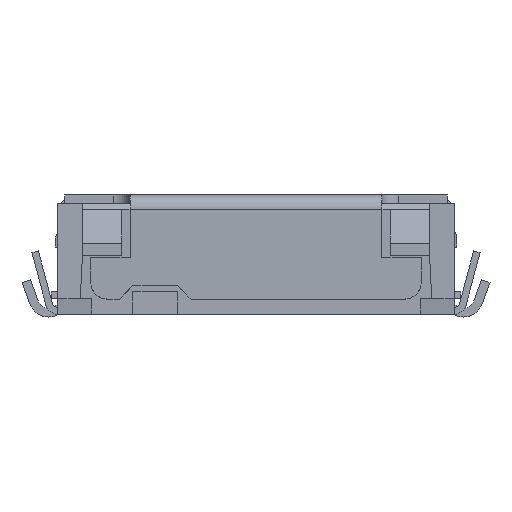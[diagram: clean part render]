
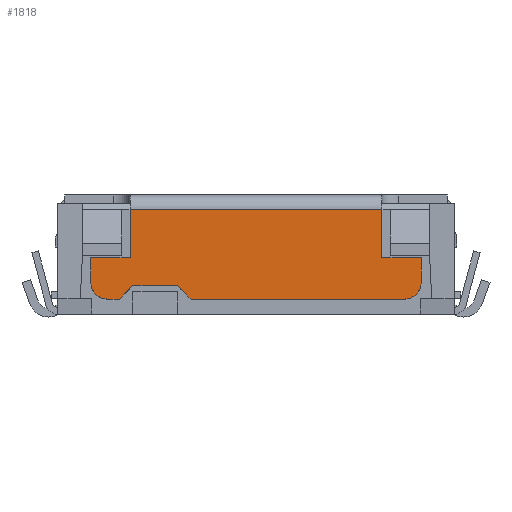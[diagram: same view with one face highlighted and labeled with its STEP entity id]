
A CAD part, front view. The second image highlights one B-rep face of the part: STEP entity #1818.
In plain terms, the highlighted planar face has unit normal (0, -1, 0).
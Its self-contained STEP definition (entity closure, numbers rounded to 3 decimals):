
#85 = ORIENTED_EDGE ( 'NONE', *, *, #1700, .T. ) ;
#91 = ORIENTED_EDGE ( 'NONE', *, *, #3338, .F. ) ;
#92 = ORIENTED_EDGE ( 'NONE', *, *, #1706, .F. ) ;
#103 = ORIENTED_EDGE ( 'NONE', *, *, #1631, .F. ) ;
#104 = ORIENTED_EDGE ( 'NONE', *, *, #1749, .F. ) ;
#110 = ORIENTED_EDGE ( 'NONE', *, *, #1727, .F. ) ;
#128 = ORIENTED_EDGE ( 'NONE', *, *, #3339, .T. ) ;
#134 = ORIENTED_EDGE ( 'NONE', *, *, #1764, .F. ) ;
#160 = ORIENTED_EDGE ( 'NONE', *, *, #1694, .F. ) ;
#1059 = ORIENTED_EDGE ( 'NONE', *, *, #1708, .F. ) ;
#1060 = ORIENTED_EDGE ( 'NONE', *, *, #3319, .F. ) ;
#1076 = ORIENTED_EDGE ( 'NONE', *, *, #1718, .T. ) ;
#1101 = ORIENTED_EDGE ( 'NONE', *, *, #3342, .F. ) ;
#1142 = ORIENTED_EDGE ( 'NONE', *, *, #1760, .T. ) ;
#1631 = EDGE_CURVE ( 'NONE', #13035, #12933, #5358, .T. ) ;
#1694 = EDGE_CURVE ( 'NONE', #12839, #12855, #5464, .T. ) ;
#1700 = EDGE_CURVE ( 'NONE', #12957, #12896, #5479, .T. ) ;
#1706 = EDGE_CURVE ( 'NONE', #13038, #12733, #5497, .T. ) ;
#1708 = EDGE_CURVE ( 'NONE', #12733, #12956, #5490, .T. ) ;
#1718 = EDGE_CURVE ( 'NONE', #13035, #13144, #5515, .T. ) ;
#1727 = EDGE_CURVE ( 'NONE', #12867, #12839, #5538, .T. ) ;
#1749 = EDGE_CURVE ( 'NONE', #12933, #12867, #5573, .T. ) ;
#1760 = EDGE_CURVE ( 'NONE', #13144, #12957, #5579, .T. ) ;
#1764 = EDGE_CURVE ( 'NONE', #12763, #12896, #5580, .T. ) ;
#1818 = ADVANCED_FACE ( 'NONE', ( #5689 ), #4412, .F. ) ;
#2468 = CARTESIAN_POINT ( 'NONE',  ( 1.325, -1.667, 0.285 ) ) ;
#2473 = DIRECTION ( 'NONE',  ( 0., 1., 0. ) ) ;
#2474 = DIRECTION ( 'NONE',  ( 0., 0., -1. ) ) ;
#2508 = CARTESIAN_POINT ( 'NONE',  ( -1.125, -1.667, 0.935 ) ) ;
#2514 = CARTESIAN_POINT ( 'NONE',  ( -1.125, -1.667, 0.985 ) ) ;
#2515 = DIRECTION ( 'NONE',  ( 0., 0., 1. ) ) ;
#2517 = DIRECTION ( 'NONE',  ( -1., 0., 0. ) ) ;
#2526 = CARTESIAN_POINT ( 'NONE',  ( 1.125, -1.667, 0.505 ) ) ;
#2527 = DIRECTION ( 'NONE',  ( 0., 0., -1. ) ) ;
#3319 = EDGE_CURVE ( 'NONE', #12956, #12763, #15668, .T. ) ;
#3338 = EDGE_CURVE ( 'NONE', #12855, #12712, #15695, .T. ) ;
#3339 = EDGE_CURVE ( 'NONE', #13138, #12712, #15700, .T. ) ;
#3342 = EDGE_CURVE ( 'NONE', #13138, #13038, #15699, .T. ) ;
#4024 = CARTESIAN_POINT ( 'NONE',  ( 1.475, -1.667, 0.505 ) ) ;
#4034 = DIRECTION ( 'NONE',  ( 1., 0., 0. ) ) ;
#4036 = CARTESIAN_POINT ( 'NONE',  ( -0.58, -1.667, 0.135 ) ) ;
#4060 = DIRECTION ( 'NONE',  ( 0.707, 0., -0.707 ) ) ;
#4081 = CARTESIAN_POINT ( 'NONE',  ( 1.475, -1.667, 0.505 ) ) ;
#4083 = DIRECTION ( 'NONE',  ( 1., 0., 0. ) ) ;
#4084 = CARTESIAN_POINT ( 'NONE',  ( 1.475, -1.667, 0.285 ) ) ;
#4092 = DIRECTION ( 'NONE',  ( 0., 0., -1. ) ) ;
#4125 = CARTESIAN_POINT ( 'NONE',  ( -1.1, -1.667, 0.255 ) ) ;
#4128 = DIRECTION ( 'NONE',  ( 0.707, 0., 0.707 ) ) ;
#4145 = CARTESIAN_POINT ( 'NONE',  ( -1.475, -1.667, 0.505 ) ) ;
#4146 = DIRECTION ( 'NONE',  ( 0., 0., 1. ) ) ;
#4183 = CARTESIAN_POINT ( 'NONE',  ( -1.325, -1.667, 0.285 ) ) ;
#4186 = DIRECTION ( 'NONE',  ( 0., 1., 0. ) ) ;
#4187 = DIRECTION ( 'NONE',  ( 0., 0., 1. ) ) ;
#4196 = CARTESIAN_POINT ( 'NONE',  ( -0.7, -1.667, 0.255 ) ) ;
#4197 = DIRECTION ( 'NONE',  ( 1., 0., 0. ) ) ;
#4200 = CARTESIAN_POINT ( 'NONE',  ( -1.325, -1.667, 0.135 ) ) ;
#4202 = DIRECTION ( 'NONE',  ( -1., 0., 0. ) ) ;
#4404 = CARTESIAN_POINT ( 'NONE',  ( -1.125, -1.667, 0.985 ) ) ;
#4412 = PLANE ( 'NONE',  #18231 ) ;
#4424 = DIRECTION ( 'NONE',  ( 0., 1., 0. ) ) ;
#4425 = DIRECTION ( 'NONE',  ( 0., 0., 1. ) ) ;
#5358 = LINE ( 'NONE', #5752, #5362 ) ;
#5362 = VECTOR ( 'NONE', #5800, 1000. ) ;
#5464 = LINE ( 'NONE', #4024, #5473 ) ;
#5473 = VECTOR ( 'NONE', #4034, 1000. ) ;
#5479 = LINE ( 'NONE', #4036, #5485 ) ;
#5485 = VECTOR ( 'NONE', #4060, 1000. ) ;
#5490 = LINE ( 'NONE', #4084, #5501 ) ;
#5497 = LINE ( 'NONE', #4081, #5498 ) ;
#5498 = VECTOR ( 'NONE', #4083, 1000. ) ;
#5501 = VECTOR ( 'NONE', #4092, 1000. ) ;
#5515 = LINE ( 'NONE', #4125, #5520 ) ;
#5520 = VECTOR ( 'NONE', #4128, 1000. ) ;
#5538 = LINE ( 'NONE', #4145, #5539 ) ;
#5539 = VECTOR ( 'NONE', #4146, 1000. ) ;
#5573 = CIRCLE ( 'NONE', #18140, 0.15 ) ;
#5576 = VECTOR ( 'NONE', #4197, 1000. ) ;
#5579 = LINE ( 'NONE', #4196, #5576 ) ;
#5580 = LINE ( 'NONE', #4200, #5584 ) ;
#5584 = VECTOR ( 'NONE', #4202, 1000. ) ;
#5689 = FACE_OUTER_BOUND ( 'NONE', #9619, .T. ) ;
#5752 = CARTESIAN_POINT ( 'NONE',  ( -1.325, -1.667, 0.135 ) ) ;
#5800 = DIRECTION ( 'NONE',  ( -1., 0., 0. ) ) ;
#8763 = CARTESIAN_POINT ( 'NONE',  ( -1.125, -1.667, 0.935 ) ) ;
#8778 = CARTESIAN_POINT ( 'NONE',  ( 1.475, -1.667, 0.505 ) ) ;
#8799 = CARTESIAN_POINT ( 'NONE',  ( 1.325, -1.667, 0.135 ) ) ;
#8858 = CARTESIAN_POINT ( 'NONE',  ( -1.475, -1.667, 0.505 ) ) ;
#8865 = CARTESIAN_POINT ( 'NONE',  ( -1.125, -1.667, 0.505 ) ) ;
#8876 = CARTESIAN_POINT ( 'NONE',  ( -1.475, -1.667, 0.285 ) ) ;
#8895 = CARTESIAN_POINT ( 'NONE',  ( -0.58, -1.667, 0.135 ) ) ;
#8921 = CARTESIAN_POINT ( 'NONE',  ( -1.325, -1.667, 0.135 ) ) ;
#8940 = CARTESIAN_POINT ( 'NONE',  ( 1.475, -1.667, 0.285 ) ) ;
#8941 = CARTESIAN_POINT ( 'NONE',  ( -0.7, -1.667, 0.255 ) ) ;
#8999 = CARTESIAN_POINT ( 'NONE',  ( -1.22, -1.667, 0.135 ) ) ;
#9001 = CARTESIAN_POINT ( 'NONE',  ( 1.125, -1.667, 0.505 ) ) ;
#9052 = CARTESIAN_POINT ( 'NONE',  ( 1.125, -1.667, 0.935 ) ) ;
#9058 = CARTESIAN_POINT ( 'NONE',  ( -1.1, -1.667, 0.255 ) ) ;
#9619 = EDGE_LOOP ( 'NONE', ( #1142, #85, #134, #1060, #1059, #92, #1101, #128, #91, #160, #110, #104, #103, #1076 ) ) ;
#12712 = VERTEX_POINT ( 'NONE', #8763 ) ;
#12733 = VERTEX_POINT ( 'NONE', #8778 ) ;
#12763 = VERTEX_POINT ( 'NONE', #8799 ) ;
#12839 = VERTEX_POINT ( 'NONE', #8858 ) ;
#12855 = VERTEX_POINT ( 'NONE', #8865 ) ;
#12867 = VERTEX_POINT ( 'NONE', #8876 ) ;
#12896 = VERTEX_POINT ( 'NONE', #8895 ) ;
#12933 = VERTEX_POINT ( 'NONE', #8921 ) ;
#12956 = VERTEX_POINT ( 'NONE', #8940 ) ;
#12957 = VERTEX_POINT ( 'NONE', #8941 ) ;
#13035 = VERTEX_POINT ( 'NONE', #8999 ) ;
#13038 = VERTEX_POINT ( 'NONE', #9001 ) ;
#13138 = VERTEX_POINT ( 'NONE', #9052 ) ;
#13144 = VERTEX_POINT ( 'NONE', #9058 ) ;
#13174 = AXIS2_PLACEMENT_3D ( 'NONE', #2468, #2473, #2474 ) ;
#15668 = CIRCLE ( 'NONE', #13174, 0.15 ) ;
#15685 = VECTOR ( 'NONE', #2515, 1000. ) ;
#15695 = LINE ( 'NONE', #2514, #15685 ) ;
#15699 = LINE ( 'NONE', #2526, #15703 ) ;
#15700 = LINE ( 'NONE', #2508, #15702 ) ;
#15702 = VECTOR ( 'NONE', #2517, 1000. ) ;
#15703 = VECTOR ( 'NONE', #2527, 1000. ) ;
#18140 = AXIS2_PLACEMENT_3D ( 'NONE', #4183, #4186, #4187 ) ;
#18231 = AXIS2_PLACEMENT_3D ( 'NONE', #4404, #4424, #4425 ) ;
